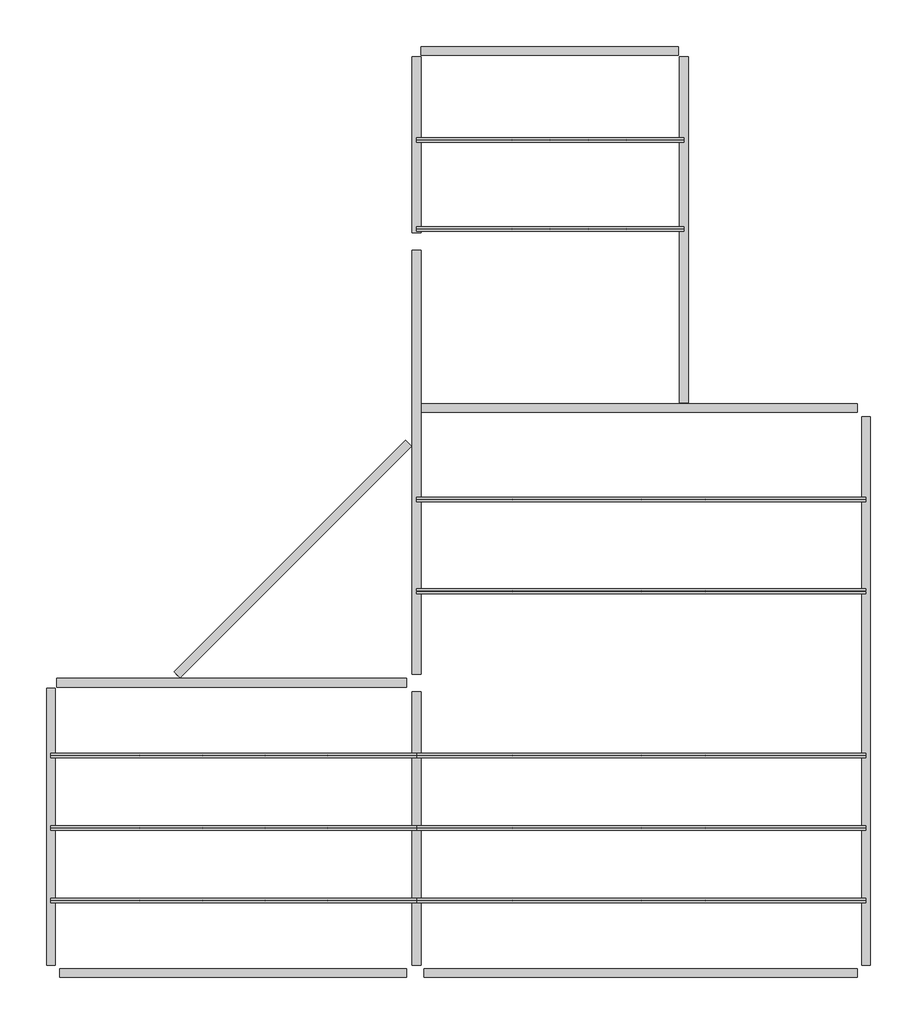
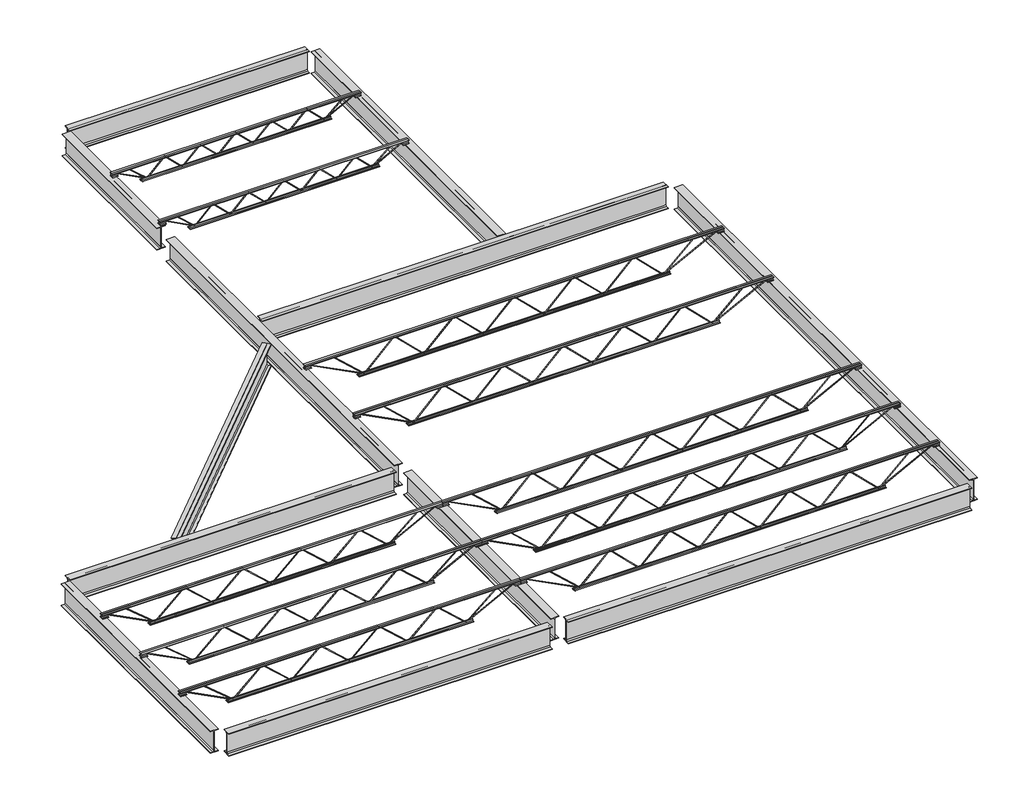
# One storey: 22 beams.
"""IFC4 building model written with IfcOpenShell, lengths in millimetres."""

from ifc_helpers import new_model, si_unit, origin, place, context, project, spatial, transform, mapped, element, save
from components import k_series_bar_joist_rod_web_12k1_97b3de8a, k_series_bar_joist_rod_web_18k3_721e3302, k_series_bar_joist_rod_web_20k4_d2b6970e, w_wide_flange_w16x26_5b3d2ce1, w_wide_flange_w16x26_4758be9f, w_wide_flange_w16x26_7aca6ae6, w_wide_flange_w16x26_c7a2a1c5, w_wide_flange_w16x26_bb316ae0, w_wide_flange_w16x26_3df24392, w_wide_flange_w16x26_6608108d, w_wide_flange_w16x26_349916ea, w_wide_flange_w16x26_3e8c792e, w_wide_flange_w16x26_9646d25a, w_wide_flange_w16x26_389cf33c, w_wide_flange_w16x26_d081aafe

model = new_model("IFC4")

# Units and contexts
model_context = context("Model", 3, world=origin())
ifc_project = project(units=[si_unit("LENGTHUNIT", "METRE", prefix="MILLI")], contexts=[model_context])

# Site, building, storey
site = spatial("IfcSite", under=ifc_project)
building = spatial("IfcBuilding", under=site)
storey = spatial("IfcBuildingStorey", under=building, Name="L4 - BOD", Elevation=56078.0)

# Beams
placement = place(None, origin())
k_series_bar_joist_rod_web_12k1_shape = k_series_bar_joist_rod_web_12k1_97b3de8a(model_context)
element("IfcBeam", 1, ObjectType="K-Series Bar Joist-Rod Web : 12K1", at=placement, inside=storey, context=model_context, shape_type="MappedRepresentation", body=[
    mapped(k_series_bar_joist_rod_web_12k1_shape, transform((-2062.4417239, 3986.9745257, 55925.6), x_axis=(-1.0, 0.0, 0.0), y_axis=(0.0, -1.0, 0.0), z_axis=(0.0, 0.0, 1.0))),
])
element("IfcBeam", 2, ObjectType="K-Series Bar Joist-Rod Web : 12K1", at=placement, inside=storey, context=model_context, shape_type="MappedRepresentation", body=[
    mapped(k_series_bar_joist_rod_web_12k1_shape, transform((-2062.4417239, 5402.4498197, 55925.6), x_axis=(-1.0, 0.0, 0.0), y_axis=(0.0, -1.0, 0.0), z_axis=(0.0, 0.0, 1.0))),
])
k_series_bar_joist_rod_web_18k3_shape = k_series_bar_joist_rod_web_18k3_721e3302(model_context)
element("IfcBeam", 3, ObjectType="K-Series Bar Joist-Rod Web : 18K3", at=placement, inside=storey, context=model_context, shape_type="MappedRepresentation", body=[
    mapped(k_series_bar_joist_rod_web_18k3_shape, transform((-7091.6417239, -6677.3782317, 55849.4), x_axis=(-1.0, 0.0, 0.0), y_axis=(0.0, -1.0, 0.0), z_axis=(0.0, 0.0, 1.0))),
])
element("IfcBeam", 4, ObjectType="K-Series Bar Joist-Rod Web : 18K3", at=placement, inside=storey, context=model_context, shape_type="MappedRepresentation", body=[
    mapped(k_series_bar_joist_rod_web_18k3_shape, transform((-7091.6417239, -5524.8190773, 55849.4), x_axis=(-1.0, 0.0, 0.0), y_axis=(0.0, -1.0, 0.0), z_axis=(0.0, 0.0, 1.0))),
])
element("IfcBeam", 5, ObjectType="K-Series Bar Joist-Rod Web : 18K3", at=placement, inside=storey, context=model_context, shape_type="MappedRepresentation", body=[
    mapped(k_series_bar_joist_rod_web_18k3_shape, transform((-7091.6417239, -4372.2599228, 55849.4), x_axis=(-1.0, 0.0, 0.0), y_axis=(0.0, -1.0, 0.0), z_axis=(0.0, 0.0, 1.0))),
])
k_series_bar_joist_rod_web_20k4_shape = k_series_bar_joist_rod_web_20k4_d2b6970e(model_context)
element("IfcBeam", 6, ObjectType="K-Series Bar Joist-Rod Web : 20K4", at=placement, inside=storey, context=model_context, shape_type="MappedRepresentation", body=[
    mapped(k_series_bar_joist_rod_web_20k4_shape, transform((-614.6417239, -309.2575877, 55824.0), x_axis=(1.0, 0.0, 0.0), y_axis=(0.0, 1.0, 0.0), z_axis=(0.0, 0.0, 1.0))),
])
element("IfcBeam", 7, ObjectType="K-Series Bar Joist-Rod Web : 20K4", at=placement, inside=storey, context=model_context, shape_type="MappedRepresentation", body=[
    mapped(k_series_bar_joist_rod_web_20k4_shape, transform((-614.6417239, -1764.479178, 55824.0), x_axis=(1.0, 0.0, 0.0), y_axis=(0.0, 1.0, 0.0), z_axis=(0.0, 0.0, 1.0))),
])
element("IfcBeam", 8, ObjectType="K-Series Bar Joist-Rod Web : 20K4", at=placement, inside=storey, context=model_context, shape_type="MappedRepresentation", body=[
    mapped(k_series_bar_joist_rod_web_20k4_shape, transform((-614.6417239, -4372.2599228, 55824.0), x_axis=(1.0, 0.0, 0.0), y_axis=(0.0, 1.0, 0.0), z_axis=(0.0, 0.0, 1.0))),
])
element("IfcBeam", 9, ObjectType="K-Series Bar Joist-Rod Web : 20K4", at=placement, inside=storey, context=model_context, shape_type="MappedRepresentation", body=[
    mapped(k_series_bar_joist_rod_web_20k4_shape, transform((-614.6417239, -5524.8190773, 55824.0), x_axis=(1.0, 0.0, 0.0), y_axis=(0.0, 1.0, 0.0), z_axis=(0.0, 0.0, 1.0))),
])
element("IfcBeam", 10, ObjectType="K-Series Bar Joist-Rod Web : 20K4", at=placement, inside=storey, context=model_context, shape_type="MappedRepresentation", body=[
    mapped(k_series_bar_joist_rod_web_20k4_shape, transform((-614.6417239, -6677.3782317, 55824.0), x_axis=(1.0, 0.0, 0.0), y_axis=(0.0, 1.0, 0.0), z_axis=(0.0, 0.0, 1.0))),
])
w_wide_flange_w16x26_shape = w_wide_flange_w16x26_5b3d2ce1(model_context)
element("IfcBeam", 11, ObjectType="W-Wide Flange : W16X26", at=placement, inside=storey, context=model_context, shape_type="MappedRepresentation", body=[
    mapped(w_wide_flange_w16x26_shape, transform((-6153.5583791, -1252.3945297, 55777.1191406), x_axis=(-0.7071067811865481, -0.707106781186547, 0.0), y_axis=(0.707106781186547, -0.7071067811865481, 0.0), z_axis=(0.0, 0.0, 1.0))),
])
w_wide_flange_w16x26_2_shape = w_wide_flange_w16x26_4758be9f(model_context)
element("IfcBeam", 12, ObjectType="W-Wide Flange : W16X26", at=placement, inside=storey, context=model_context, shape_type="MappedRepresentation", body=[
    mapped(w_wide_flange_w16x26_2_shape, transform((-9997.0313072, -5524.8190773, 55815.2191406), x_axis=(0.0, 1.0, 0.0), y_axis=(-1.0, 0.0, 0.0), z_axis=(0.0, 0.0, 1.0))),
])
w_wide_flange_w16x26_3_shape = w_wide_flange_w16x26_7aca6ae6(model_context)
element("IfcBeam", 13, ObjectType="W-Wide Flange : W16X26", at=placement, inside=storey, context=model_context, shape_type="MappedRepresentation", body=[
    mapped(w_wide_flange_w16x26_3_shape, transform((-4186.2521405, -5524.8190773, 55815.2191406), x_axis=(0.0, 1.0, 0.0), y_axis=(-1.0, 0.0, 0.0), z_axis=(0.0, 0.0, 1.0))),
])
w_wide_flange_w16x26_4_shape = w_wide_flange_w16x26_c7a2a1c5(model_context)
element("IfcBeam", 14, ObjectType="W-Wide Flange : W16X26", at=placement, inside=storey, context=model_context, shape_type="MappedRepresentation", body=[
    mapped(w_wide_flange_w16x26_4_shape, transform((-4186.2521405, 285.4992317, 55777.1191406), x_axis=(0.0, 1.0, 0.0), y_axis=(-1.0, 0.0, 0.0), z_axis=(0.0, 0.0, 1.0))),
])
w_wide_flange_w16x26_5_shape = w_wide_flange_w16x26_bb316ae0(model_context)
element("IfcBeam", 15, ObjectType="W-Wide Flange : W16X26", at=placement, inside=storey, context=model_context, shape_type="MappedRepresentation", body=[
    mapped(w_wide_flange_w16x26_5_shape, transform((-4186.2521405, 5304.3121727, 55815.2191406), x_axis=(0.0, 1.0, 0.0), y_axis=(-1.0, 0.0, 0.0), z_axis=(0.0, 0.0, 1.0))),
])
w_wide_flange_w16x26_6_shape = w_wide_flange_w16x26_3df24392(model_context)
element("IfcBeam", 16, ObjectType="W-Wide Flange : W16X26", at=placement, inside=storey, context=model_context, shape_type="MappedRepresentation", body=[
    mapped(w_wide_flange_w16x26_6_shape, transform((61.3686928, 3981.9445582, 55815.2191406), x_axis=(0.0, 1.0, 0.0), y_axis=(-1.0, 0.0, 0.0), z_axis=(0.0, 0.0, 1.0))),
])
w_wide_flange_w16x26_7_shape = w_wide_flange_w16x26_6608108d(model_context)
element("IfcBeam", 17, ObjectType="W-Wide Flange : W16X26", at=placement, inside=storey, context=model_context, shape_type="MappedRepresentation", body=[
    mapped(w_wide_flange_w16x26_7_shape, transform((2956.9686928, -3341.9866918, 55815.2191406), x_axis=(0.0, 1.0, 0.0), y_axis=(-1.0, 0.0, 0.0), z_axis=(0.0, 0.0, 1.0))),
])
w_wide_flange_w16x26_8_shape = w_wide_flange_w16x26_349916ea(model_context)
element("IfcBeam", 18, ObjectType="W-Wide Flange : W16X26", at=placement, inside=storey, context=model_context, shape_type="MappedRepresentation", body=[
    mapped(w_wide_flange_w16x26_8_shape, transform((-614.6417239, 1145.9640027, 55815.2191406), x_axis=(-1.0, 0.0, 0.0), y_axis=(0.0, -1.0, 0.0), z_axis=(0.0, 0.0, 1.0))),
])
w_wide_flange_w16x26_9_shape = w_wide_flange_w16x26_3e8c792e(model_context)
element("IfcBeam", 19, ObjectType="W-Wide Flange : W16X26", at=placement, inside=storey, context=model_context, shape_type="MappedRepresentation", body=[
    mapped(w_wide_flange_w16x26_9_shape, transform((-614.6417239, -7829.9373862, 55815.2191406), x_axis=(-1.0, 0.0, 0.0), y_axis=(0.0, -1.0, 0.0), z_axis=(0.0, 0.0, 1.0))),
])
w_wide_flange_w16x26_10_shape = w_wide_flange_w16x26_9646d25a(model_context)
element("IfcBeam", 20, ObjectType="W-Wide Flange : W16X26", at=placement, inside=storey, context=model_context, shape_type="MappedRepresentation", body=[
    mapped(w_wide_flange_w16x26_10_shape, transform((-7091.6417239, -7829.9373862, 55815.2191406), x_axis=(-1.0, 0.0, 0.0), y_axis=(0.0, -1.0, 0.0), z_axis=(0.0, 0.0, 1.0))),
])
w_wide_flange_w16x26_11_shape = w_wide_flange_w16x26_389cf33c(model_context)
element("IfcBeam", 21, ObjectType="W-Wide Flange : W16X26", at=placement, inside=storey, context=model_context, shape_type="MappedRepresentation", body=[
    mapped(w_wide_flange_w16x26_11_shape, transform((-2072.2313072, 6817.9251138, 55815.2191406), x_axis=(-1.0, 0.0, 0.0), y_axis=(0.0, -1.0, 0.0), z_axis=(0.0, 0.0, 1.0))),
])
w_wide_flange_w16x26_12_shape = w_wide_flange_w16x26_d081aafe(model_context)
element("IfcBeam", 22, ObjectType="W-Wide Flange : W16X26", at=placement, inside=storey, context=model_context, shape_type="MappedRepresentation", body=[
    mapped(w_wide_flange_w16x26_12_shape, transform((-7091.6417239, -3219.7007683, 55815.2191406), x_axis=(-1.0, 0.0, 0.0), y_axis=(0.0, -1.0, 0.0), z_axis=(0.0, 0.0, 1.0))),
])

save(model, "model.ifc")
